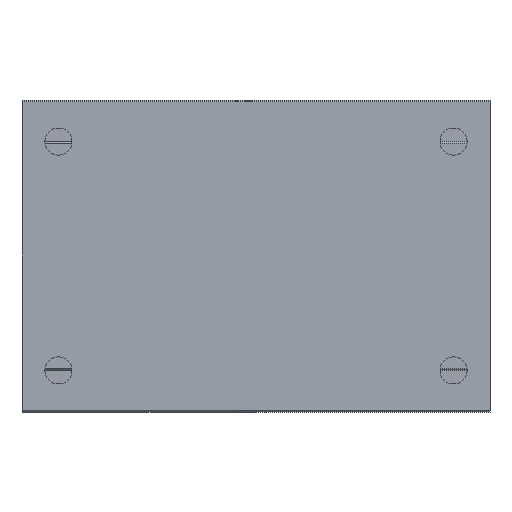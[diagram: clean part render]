
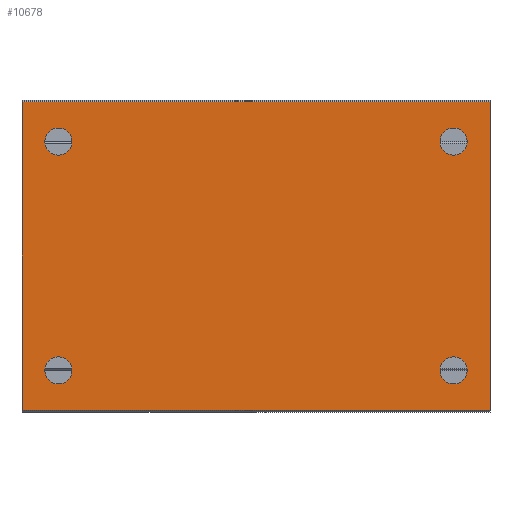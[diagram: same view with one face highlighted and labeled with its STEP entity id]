
A CAD part, front view. The second image highlights one B-rep face of the part: STEP entity #10678.
In plain terms, the highlighted planar face has unit normal (0, -1, 0).
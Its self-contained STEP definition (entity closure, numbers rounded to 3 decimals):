
#348=CIRCLE('',#11308,1.3);
#349=CIRCLE('',#11309,1.3);
#350=CIRCLE('',#11310,1.3);
#351=CIRCLE('',#11311,1.3);
#1056=ORIENTED_EDGE('',*,*,#4329,.T.);
#1057=ORIENTED_EDGE('',*,*,#4330,.F.);
#1058=ORIENTED_EDGE('',*,*,#4331,.F.);
#1059=ORIENTED_EDGE('',*,*,#4332,.F.);
#1060=ORIENTED_EDGE('',*,*,#4303,.T.);
#1061=ORIENTED_EDGE('',*,*,#4333,.F.);
#1062=ORIENTED_EDGE('',*,*,#4334,.F.);
#1063=ORIENTED_EDGE('',*,*,#4327,.T.);
#4303=EDGE_CURVE('',#5942,#5941,#7041,.T.);
#4327=EDGE_CURVE('',#5964,#5942,#7065,.T.);
#4329=EDGE_CURVE('',#5965,#5965,#348,.T.);
#4330=EDGE_CURVE('',#5966,#5966,#349,.T.);
#4331=EDGE_CURVE('',#5967,#5967,#350,.T.);
#4332=EDGE_CURVE('',#5968,#5968,#351,.T.);
#4333=EDGE_CURVE('',#5969,#5941,#7067,.T.);
#4334=EDGE_CURVE('',#5964,#5969,#7068,.T.);
#5941=VERTEX_POINT('',#16118);
#5942=VERTEX_POINT('',#16120);
#5964=VERTEX_POINT('',#16169);
#5965=VERTEX_POINT('',#16173);
#5966=VERTEX_POINT('',#16175);
#5967=VERTEX_POINT('',#16177);
#5968=VERTEX_POINT('',#16179);
#5969=VERTEX_POINT('',#16181);
#7041=LINE('',#16119,#8055);
#7065=LINE('',#16168,#8079);
#7067=LINE('',#16180,#8081);
#7068=LINE('',#16182,#8082);
#8055=VECTOR('',#12598,1000.);
#8079=VECTOR('',#12628,1000.);
#8081=VECTOR('',#12640,1000.);
#8082=VECTOR('',#12641,1000.);
#9025=EDGE_LOOP('',(#1056));
#9026=EDGE_LOOP('',(#1057));
#9027=EDGE_LOOP('',(#1058));
#9028=EDGE_LOOP('',(#1059));
#9029=EDGE_LOOP('',(#1060,#1061,#1062,#1063));
#9709=FACE_BOUND('',#9025,.T.);
#9710=FACE_BOUND('',#9026,.T.);
#9711=FACE_BOUND('',#9027,.T.);
#9712=FACE_BOUND('',#9028,.T.);
#9713=FACE_BOUND('',#9029,.T.);
#10393=PLANE('',#11307);
#10678=ADVANCED_FACE('',(#9709,#9710,#9711,#9712,#9713),#10393,.F.);
#11307=AXIS2_PLACEMENT_3D('',#16171,#12630,#12631);
#11308=AXIS2_PLACEMENT_3D('',#16172,#12632,#12633);
#11309=AXIS2_PLACEMENT_3D('',#16174,#12634,#12635);
#11310=AXIS2_PLACEMENT_3D('',#16176,#12636,#12637);
#11311=AXIS2_PLACEMENT_3D('',#16178,#12638,#12639);
#12598=DIRECTION('',(0.,0.,-1.));
#12628=DIRECTION('',(-1.,0.,0.));
#12630=DIRECTION('',(0.,1.,0.));
#12631=DIRECTION('',(0.,0.,1.));
#12632=DIRECTION('',(0.,1.,0.));
#12633=DIRECTION('',(0.,0.,1.));
#12634=DIRECTION('',(0.,-1.,0.));
#12635=DIRECTION('',(0.,0.,-1.));
#12636=DIRECTION('',(0.,-1.,0.));
#12637=DIRECTION('',(0.,0.,-1.));
#12638=DIRECTION('',(0.,-1.,0.));
#12639=DIRECTION('',(0.,0.,-1.));
#12640=DIRECTION('',(-1.,0.,0.));
#12641=DIRECTION('',(0.,0.,-1.));
#16118=CARTESIAN_POINT('',(0.,0.,-14.85));
#16119=CARTESIAN_POINT('',(0.,0.,14.85));
#16120=CARTESIAN_POINT('',(0.,0.,14.85));
#16168=CARTESIAN_POINT('',(45.,0.,14.85));
#16169=CARTESIAN_POINT('',(45.,0.,14.85));
#16171=CARTESIAN_POINT('',(45.,0.,14.85));
#16172=CARTESIAN_POINT('',(41.5,0.,11.));
#16173=CARTESIAN_POINT('',(41.5,0.,12.3));
#16174=CARTESIAN_POINT('',(41.5,0.,-11.));
#16175=CARTESIAN_POINT('',(41.5,0.,-12.3));
#16176=CARTESIAN_POINT('',(3.5,0.,-11.));
#16177=CARTESIAN_POINT('',(3.5,0.,-12.3));
#16178=CARTESIAN_POINT('',(3.5,0.,11.));
#16179=CARTESIAN_POINT('',(3.5,0.,9.7));
#16180=CARTESIAN_POINT('',(45.,0.,-14.85));
#16181=CARTESIAN_POINT('',(45.,0.,-14.85));
#16182=CARTESIAN_POINT('',(45.,0.,14.85));
